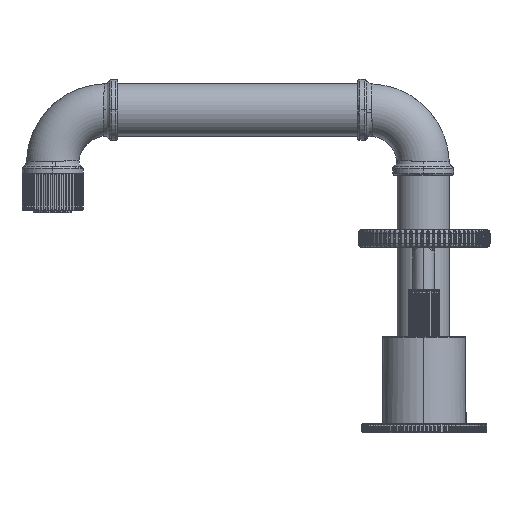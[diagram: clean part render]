
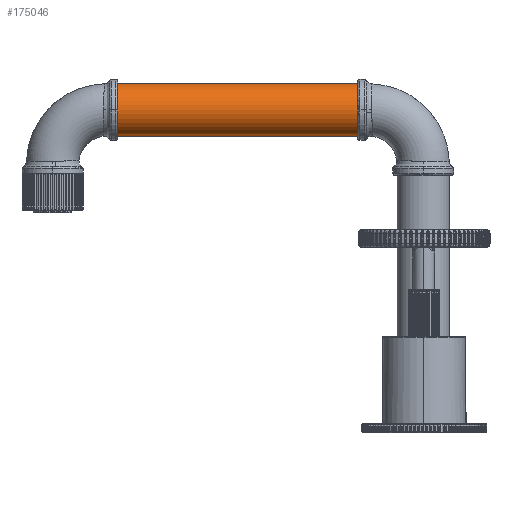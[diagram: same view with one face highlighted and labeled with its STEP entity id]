
A CAD part, front view. The second image highlights one B-rep face of the part: STEP entity #175046.
In plain terms, the highlighted cylindrical face has radius 12 mm (diameter 24 mm), a partial arc.
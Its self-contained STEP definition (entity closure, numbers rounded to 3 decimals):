
#13414 = AXIS2_PLACEMENT_3D ( 'NONE', #167784, #333000, #56551 ) ;
#49204 = CARTESIAN_POINT ( 'NONE',  ( -201.032, -15.194, 158. ) ) ;
#50817 = CARTESIAN_POINT ( 'NONE',  ( -213.032, -15.194, 158. ) ) ;
#56551 = DIRECTION ( 'NONE',  ( 0., 1., 0. ) ) ;
#60315 = EDGE_CURVE ( 'NONE', #287927, #70798, #271514, .T. ) ;
#63541 = EDGE_CURVE ( 'NONE', #99936, #109196, #130561, .T. ) ;
#69283 = CARTESIAN_POINT ( 'NONE',  ( -90.032, -15.194, 170. ) ) ;
#70798 = VERTEX_POINT ( 'NONE', #158192 ) ;
#71445 = EDGE_CURVE ( 'NONE', #142873, #109196, #238373, .T. ) ;
#74926 = EDGE_CURVE ( 'NONE', #287927, #104921, #295401, .T. ) ;
#76795 = DIRECTION ( 'NONE',  ( -1., 0., 0. ) ) ;
#78517 = ORIENTED_EDGE ( 'NONE', *, *, #245616, .F. ) ;
#99936 = VERTEX_POINT ( 'NONE', #230480 ) ;
#104921 = VERTEX_POINT ( 'NONE', #139302 ) ;
#109196 = VERTEX_POINT ( 'NONE', #49204 ) ;
#116909 = DIRECTION ( 'NONE',  ( 0., 1., 0. ) ) ;
#130561 = LINE ( 'NONE', #50817, #321564 ) ;
#139302 = CARTESIAN_POINT ( 'NONE',  ( -201.032, -15.194, 182. ) ) ;
#139791 = CARTESIAN_POINT ( 'NONE',  ( -213.032, -15.194, 170. ) ) ;
#142873 = VERTEX_POINT ( 'NONE', #331748 ) ;
#145375 = DIRECTION ( 'NONE',  ( -1., 0., 0. ) ) ;
#156296 = DIRECTION ( 'NONE',  ( -1., 0., 0. ) ) ;
#158192 = CARTESIAN_POINT ( 'NONE',  ( -90.032, -27.194, 170. ) ) ;
#161591 = CARTESIAN_POINT ( 'NONE',  ( -90.032, -15.194, 182. ) ) ;
#167784 = CARTESIAN_POINT ( 'NONE',  ( -201.032, -15.194, 170. ) ) ;
#175046 = ADVANCED_FACE ( 'NONE', ( #282594 ), #364240, .T. ) ;
#188679 = AXIS2_PLACEMENT_3D ( 'NONE', #69283, #288139, #295451 ) ;
#202223 = ORIENTED_EDGE ( 'NONE', *, *, #74926, .T. ) ;
#208330 = CARTESIAN_POINT ( 'NONE',  ( -213.032, -15.194, 182. ) ) ;
#211668 = VECTOR ( 'NONE', #156296, 1000. ) ;
#218055 = DIRECTION ( 'NONE',  ( 1., 0., 0. ) ) ;
#230480 = CARTESIAN_POINT ( 'NONE',  ( -90.032, -15.194, 158. ) ) ;
#238373 = CIRCLE ( 'NONE', #13414, 12. ) ;
#244020 = DIRECTION ( 'NONE',  ( 0., 0., 1. ) ) ;
#245616 = EDGE_CURVE ( 'NONE', #70798, #99936, #325047, .T. ) ;
#250997 = AXIS2_PLACEMENT_3D ( 'NONE', #257860, #355511, #116909 ) ;
#252826 = ORIENTED_EDGE ( 'NONE', *, *, #290784, .T. ) ;
#257860 = CARTESIAN_POINT ( 'NONE',  ( -201.032, -15.194, 170. ) ) ;
#264166 = AXIS2_PLACEMENT_3D ( 'NONE', #139791, #145375, #314125 ) ;
#271514 = CIRCLE ( 'NONE', #188679, 12. ) ;
#273444 = ORIENTED_EDGE ( 'NONE', *, *, #60315, .F. ) ;
#282594 = FACE_OUTER_BOUND ( 'NONE', #320448, .T. ) ;
#286452 = CIRCLE ( 'NONE', #250997, 12. ) ;
#287927 = VERTEX_POINT ( 'NONE', #161591 ) ;
#288139 = DIRECTION ( 'NONE',  ( 1., 0., 0. ) ) ;
#290784 = EDGE_CURVE ( 'NONE', #104921, #142873, #286452, .T. ) ;
#295401 = LINE ( 'NONE', #208330, #211668 ) ;
#295451 = DIRECTION ( 'NONE',  ( 0., 0., 1. ) ) ;
#307334 = AXIS2_PLACEMENT_3D ( 'NONE', #331206, #218055, #244020 ) ;
#308133 = ORIENTED_EDGE ( 'NONE', *, *, #63541, .F. ) ;
#314125 = DIRECTION ( 'NONE',  ( 0., 0., 1. ) ) ;
#320448 = EDGE_LOOP ( 'NONE', ( #308133, #78517, #273444, #202223, #252826, #346495 ) ) ;
#321564 = VECTOR ( 'NONE', #76795, 1000. ) ;
#325047 = CIRCLE ( 'NONE', #307334, 12. ) ;
#331206 = CARTESIAN_POINT ( 'NONE',  ( -90.032, -15.194, 170. ) ) ;
#331748 = CARTESIAN_POINT ( 'NONE',  ( -201.032, -27.194, 170. ) ) ;
#333000 = DIRECTION ( 'NONE',  ( 1., 0., 0. ) ) ;
#346495 = ORIENTED_EDGE ( 'NONE', *, *, #71445, .T. ) ;
#355511 = DIRECTION ( 'NONE',  ( 1., 0., 0. ) ) ;
#364240 = CYLINDRICAL_SURFACE ( 'NONE', #264166, 12. ) ;
